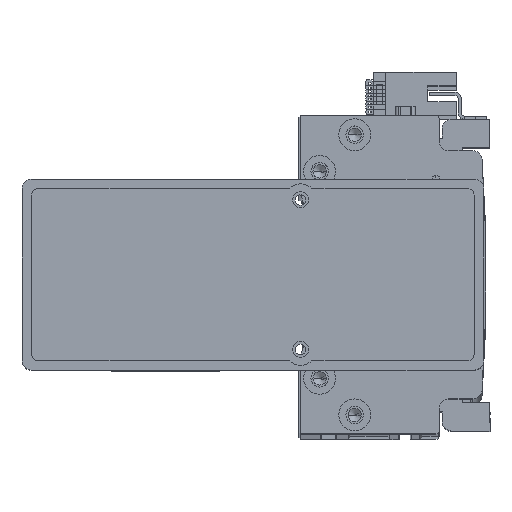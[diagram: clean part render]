
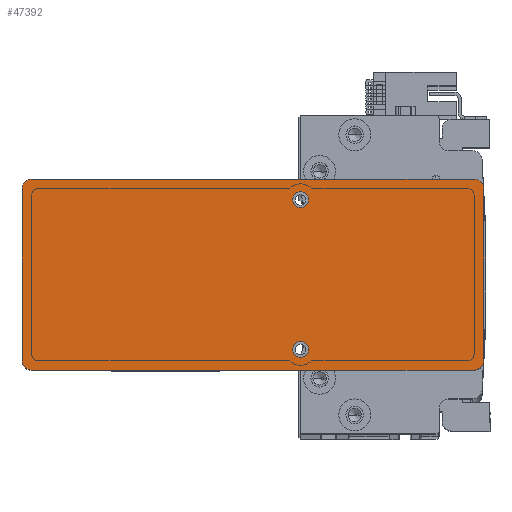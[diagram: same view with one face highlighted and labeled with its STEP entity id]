
A CAD part, top view. The second image highlights one B-rep face of the part: STEP entity #47392.
In plain terms, the highlighted planar face has unit normal (0, 0, 1) as drawn and (0, 0, -1) by its records, which use the part's own axes.
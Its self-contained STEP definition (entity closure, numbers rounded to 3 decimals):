
#19 = EDGE_CURVE ( 'NONE', #698, #46399, #10309, .T. ) ;
#387 = EDGE_LOOP ( 'NONE', ( #30866, #18028, #24952, #10801, #34127, #30379, #33755, #43085 ) ) ;
#401 = EDGE_CURVE ( 'NONE', #24558, #10317, #23620, .T. ) ;
#698 = VERTEX_POINT ( 'NONE', #31190 ) ;
#1335 = VERTEX_POINT ( 'NONE', #28350 ) ;
#1483 = CARTESIAN_POINT ( 'NONE',  ( 15., 23.5, 0. ) ) ;
#1745 = CARTESIAN_POINT ( 'NONE',  ( 15., -23.5, 0. ) ) ;
#1770 = EDGE_CURVE ( 'NONE', #24558, #27293, #49237, .T. ) ;
#2156 = EDGE_CURVE ( 'NONE', #1335, #49604, #46798, .T. ) ;
#2190 = DIRECTION ( 'NONE',  ( -1., 0., 0. ) ) ;
#2491 = FACE_OUTER_BOUND ( 'NONE', #387, .T. ) ;
#2690 = DIRECTION ( 'NONE',  ( 1., 0., 0. ) ) ;
#2941 = EDGE_CURVE ( 'NONE', #43980, #11286, #35665, .T. ) ;
#3586 = AXIS2_PLACEMENT_3D ( 'NONE', #45450, #22147, #49348 ) ;
#3617 = ORIENTED_EDGE ( 'NONE', *, *, #2941, .F. ) ;
#3812 = DIRECTION ( 'NONE',  ( 0., 0., -1. ) ) ;
#4962 = AXIS2_PLACEMENT_3D ( 'NONE', #30654, #7436, #34590 ) ;
#5268 = CIRCLE ( 'NONE', #34549, 3. ) ;
#5408 = DIRECTION ( 'NONE',  ( -1., 0., 0. ) ) ;
#5674 = DIRECTION ( 'NONE',  ( -1., 0., 0. ) ) ;
#7035 = CARTESIAN_POINT ( 'NONE',  ( -72.5, -30., 0. ) ) ;
#7436 = DIRECTION ( 'NONE',  ( 0., 0., -1. ) ) ;
#9093 = VECTOR ( 'NONE', #11115, 1000. ) ;
#10309 = LINE ( 'NONE', #30606, #9093 ) ;
#10317 = VERTEX_POINT ( 'NONE', #47281 ) ;
#10792 = CARTESIAN_POINT ( 'NONE',  ( -72.5, 27., 0. ) ) ;
#10801 = ORIENTED_EDGE ( 'NONE', *, *, #22438, .T. ) ;
#10828 = CARTESIAN_POINT ( 'NONE',  ( -69.5, 27., 0. ) ) ;
#10906 = DIRECTION ( 'NONE',  ( 0., -1., 0. ) ) ;
#10954 = DIRECTION ( 'NONE',  ( 1., 0., 0. ) ) ;
#11115 = DIRECTION ( 'NONE',  ( -1., 0., 0. ) ) ;
#11286 = VERTEX_POINT ( 'NONE', #13184 ) ;
#11843 = EDGE_CURVE ( 'NONE', #11286, #43980, #15536, .T. ) ;
#12094 = VECTOR ( 'NONE', #10906, 1000. ) ;
#13184 = CARTESIAN_POINT ( 'NONE',  ( 17.5, -23.5, 0. ) ) ;
#14023 = FACE_BOUND ( 'NONE', #29894, .T. ) ;
#14704 = DIRECTION ( 'NONE',  ( 1., 0., 0. ) ) ;
#15536 = CIRCLE ( 'NONE', #3586, 2.5 ) ;
#16100 = CARTESIAN_POINT ( 'NONE',  ( 72.5, -30., 0. ) ) ;
#16345 = DIRECTION ( 'NONE',  ( 0., 0., 1. ) ) ;
#17448 = EDGE_CURVE ( 'NONE', #39535, #22603, #32714, .T. ) ;
#18028 = ORIENTED_EDGE ( 'NONE', *, *, #401, .T. ) ;
#18531 = AXIS2_PLACEMENT_3D ( 'NONE', #27052, #3812, #30912 ) ;
#19223 = ORIENTED_EDGE ( 'NONE', *, *, #11843, .F. ) ;
#21640 = CARTESIAN_POINT ( 'NONE',  ( -69.5, -30., 0. ) ) ;
#21860 = ORIENTED_EDGE ( 'NONE', *, *, #2156, .F. ) ;
#22147 = DIRECTION ( 'NONE',  ( 0., 0., -1. ) ) ;
#22438 = EDGE_CURVE ( 'NONE', #47023, #22603, #5268, .T. ) ;
#22503 = EDGE_CURVE ( 'NONE', #39535, #46399, #33789, .T. ) ;
#22579 = EDGE_CURVE ( 'NONE', #698, #27293, #28881, .T. ) ;
#22603 = VERTEX_POINT ( 'NONE', #42426 ) ;
#23149 = FACE_BOUND ( 'NONE', #32012, .T. ) ;
#23620 = CIRCLE ( 'NONE', #18531, 3. ) ;
#24318 = CARTESIAN_POINT ( 'NONE',  ( 17.5, 23.5, 0. ) ) ;
#24558 = VERTEX_POINT ( 'NONE', #49005 ) ;
#24952 = ORIENTED_EDGE ( 'NONE', *, *, #26170, .F. ) ;
#25408 = DIRECTION ( 'NONE',  ( 0., 0., -1. ) ) ;
#25562 = CIRCLE ( 'NONE', #35561, 2.5 ) ;
#25910 = DIRECTION ( 'NONE',  ( 0., 0., -1. ) ) ;
#25957 = EDGE_CURVE ( 'NONE', #49604, #1335, #25562, .T. ) ;
#26170 = EDGE_CURVE ( 'NONE', #47023, #10317, #34672, .T. ) ;
#27052 = CARTESIAN_POINT ( 'NONE',  ( 69.5, -27., 0. ) ) ;
#27293 = VERTEX_POINT ( 'NONE', #30983 ) ;
#28146 = CARTESIAN_POINT ( 'NONE',  ( -69.5, 30., 0. ) ) ;
#28350 = CARTESIAN_POINT ( 'NONE',  ( 12.5, 23.5, 0. ) ) ;
#28611 = DIRECTION ( 'NONE',  ( 0., 0., -1. ) ) ;
#28881 = CIRCLE ( 'NONE', #4962, 3. ) ;
#28892 = DIRECTION ( 'NONE',  ( 0., 0., -1. ) ) ;
#29894 = EDGE_LOOP ( 'NONE', ( #21860, #35408 ) ) ;
#30379 = ORIENTED_EDGE ( 'NONE', *, *, #22503, .T. ) ;
#30606 = CARTESIAN_POINT ( 'NONE',  ( 72.5, 30., 0. ) ) ;
#30654 = CARTESIAN_POINT ( 'NONE',  ( 69.5, 27., 0. ) ) ;
#30866 = ORIENTED_EDGE ( 'NONE', *, *, #1770, .F. ) ;
#30912 = DIRECTION ( 'NONE',  ( 1., 0., 0. ) ) ;
#30983 = CARTESIAN_POINT ( 'NONE',  ( 72.5, 27., 0. ) ) ;
#31190 = CARTESIAN_POINT ( 'NONE',  ( 69.5, 30., 0. ) ) ;
#31590 = PLANE ( 'NONE',  #32065 ) ;
#32012 = EDGE_LOOP ( 'NONE', ( #3617, #19223 ) ) ;
#32065 = AXIS2_PLACEMENT_3D ( 'NONE', #39621, #16345, #43568 ) ;
#32714 = LINE ( 'NONE', #7035, #12094 ) ;
#33755 = ORIENTED_EDGE ( 'NONE', *, *, #19, .F. ) ;
#33789 = CIRCLE ( 'NONE', #39776, 3. ) ;
#34127 = ORIENTED_EDGE ( 'NONE', *, *, #17448, .F. ) ;
#34549 = AXIS2_PLACEMENT_3D ( 'NONE', #49233, #25910, #2690 ) ;
#34590 = DIRECTION ( 'NONE',  ( 1., 0., 0. ) ) ;
#34672 = LINE ( 'NONE', #38158, #45021 ) ;
#35408 = ORIENTED_EDGE ( 'NONE', *, *, #25957, .F. ) ;
#35561 = AXIS2_PLACEMENT_3D ( 'NONE', #1483, #28611, #5408 ) ;
#35665 = CIRCLE ( 'NONE', #49273, 2.5 ) ;
#35843 = AXIS2_PLACEMENT_3D ( 'NONE', #48737, #25408, #2190 ) ;
#38026 = DIRECTION ( 'NONE',  ( 0., 0., -1. ) ) ;
#38158 = CARTESIAN_POINT ( 'NONE',  ( 72.5, -30., 0. ) ) ;
#39535 = VERTEX_POINT ( 'NONE', #10792 ) ;
#39621 = CARTESIAN_POINT ( 'NONE',  ( 0., 0., 0. ) ) ;
#39776 = AXIS2_PLACEMENT_3D ( 'NONE', #10828, #38026, #14704 ) ;
#42426 = CARTESIAN_POINT ( 'NONE',  ( -72.5, -27., 0. ) ) ;
#43085 = ORIENTED_EDGE ( 'NONE', *, *, #22579, .T. ) ;
#43568 = DIRECTION ( 'NONE',  ( 1., 0., 0. ) ) ;
#43867 = CARTESIAN_POINT ( 'NONE',  ( 12.5, -23.5, 0. ) ) ;
#43980 = VERTEX_POINT ( 'NONE', #43867 ) ;
#45021 = VECTOR ( 'NONE', #10954, 1000. ) ;
#45450 = CARTESIAN_POINT ( 'NONE',  ( 15., -23.5, 0. ) ) ;
#46399 = VERTEX_POINT ( 'NONE', #28146 ) ;
#46798 = CIRCLE ( 'NONE', #35843, 2.5 ) ;
#47023 = VERTEX_POINT ( 'NONE', #21640 ) ;
#47281 = CARTESIAN_POINT ( 'NONE',  ( 69.5, -30., 0. ) ) ;
#47375 = DIRECTION ( 'NONE',  ( 0., 1., 0. ) ) ;
#47392 = ADVANCED_FACE ( 'NONE', ( #14023, #23149, #2491 ), #31590, .F. ) ;
#48032 = VECTOR ( 'NONE', #47375, 1000. ) ;
#48737 = CARTESIAN_POINT ( 'NONE',  ( 15., 23.5, 0. ) ) ;
#49005 = CARTESIAN_POINT ( 'NONE',  ( 72.5, -27., 0. ) ) ;
#49233 = CARTESIAN_POINT ( 'NONE',  ( -69.5, -27., 0. ) ) ;
#49237 = LINE ( 'NONE', #16100, #48032 ) ;
#49273 = AXIS2_PLACEMENT_3D ( 'NONE', #1745, #28892, #5674 ) ;
#49348 = DIRECTION ( 'NONE',  ( -1., 0., 0. ) ) ;
#49604 = VERTEX_POINT ( 'NONE', #24318 ) ;
